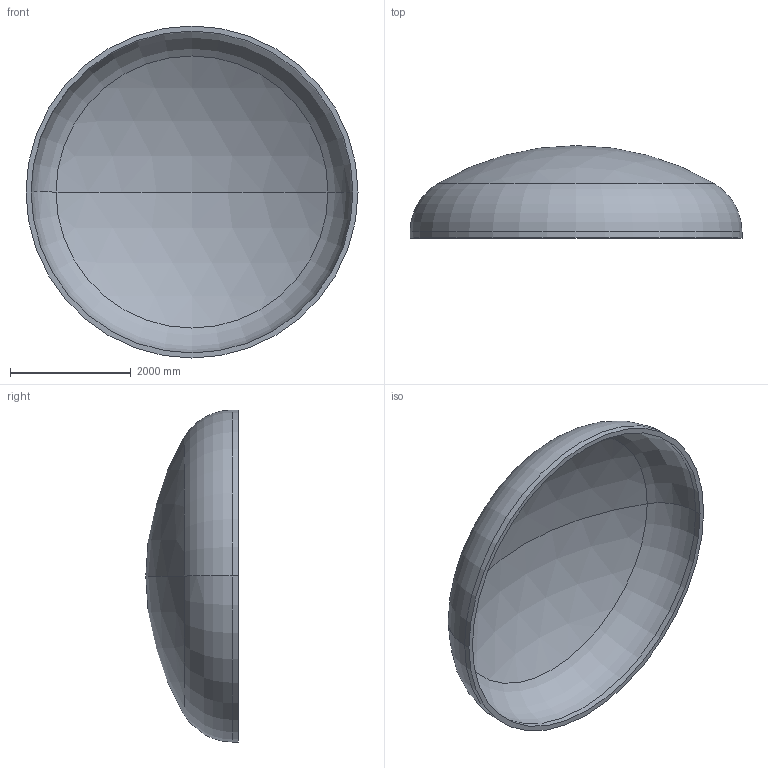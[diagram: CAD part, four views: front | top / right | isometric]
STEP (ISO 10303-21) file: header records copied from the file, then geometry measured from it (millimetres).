
FILE_DESCRIPTION (( 'STEP AP203' ), '1' );
FILE_NAME ('DIN 28013 Korbbogenform_-_Boden DIN 28013 - 5500 x 100 - I - s=84.step', '2016-07-04T10:34:54', ( '' ), ( '' ), 'SwSTEP 2.0', 'SolidWorks 2013', '' );
FILE_SCHEMA (( 'CONFIG_CONTROL_DESIGN' ));
Length unit declared in the file: millimetre
Products named in the file (1): DIN 28013 Korbbogenform_-_Boden DIN 28013 - 5500 x 100 - I - s=84
Bounding box: 5500 x 1530.81 x 5500 mm (x, y, z)
Volume: 2850492065.9 mm3; surface area: 69312860.1 mm2
Topology: 1 solids, 1 shells, 13 faces, 24 edges, 14 vertices
Faces by surface type: torus 4, cylinder 4, sphere 4, plane 1
Entity records: 407 total; most frequent: DIRECTION 72, CARTESIAN_POINT 52, ORIENTED_EDGE 48, AXIS2_PLACEMENT_3D 34, EDGE_CURVE 24, CIRCLE 20, EDGE_LOOP 14, VERTEX_POINT 14
